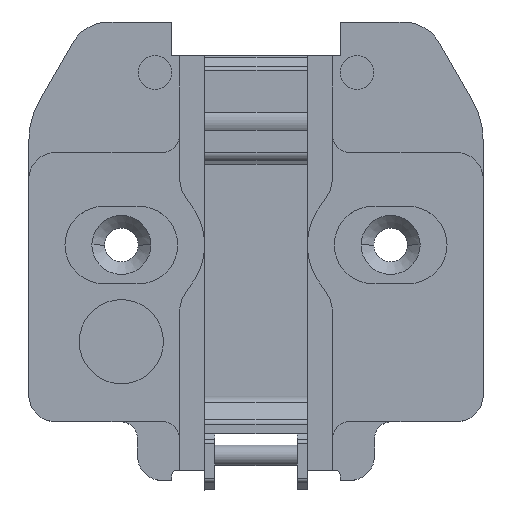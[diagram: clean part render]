
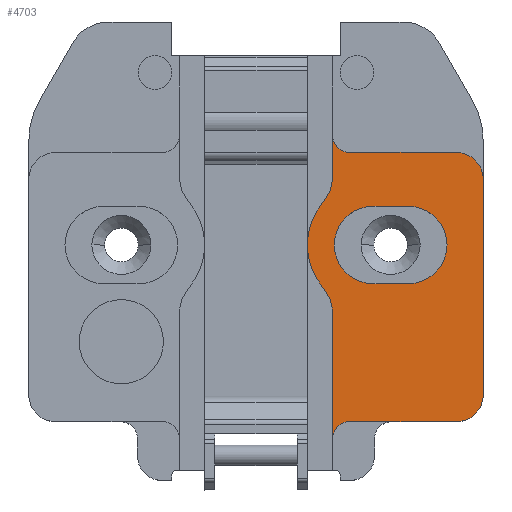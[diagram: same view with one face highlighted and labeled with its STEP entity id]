
A CAD part, top view. The second image highlights one B-rep face of the part: STEP entity #4703.
In plain terms, the highlighted planar face has unit normal (0, 0, 1).
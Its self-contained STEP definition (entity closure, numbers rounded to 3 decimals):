
#72 = CARTESIAN_POINT ( 'NONE',  ( 45.5, -1.25, 4.9 ) ) ;
#74 = DIRECTION ( 'NONE',  ( 1., 0., 0. ) ) ;
#223 = CARTESIAN_POINT ( 'NONE',  ( 47.3, 27.55, 4.9 ) ) ;
#224 = DIRECTION ( 'NONE',  ( 0., 0., 1. ) ) ;
#225 = DIRECTION ( 'NONE',  ( 1., 0., 0. ) ) ;
#249 = CARTESIAN_POINT ( 'NONE',  ( 50.5, 1.95, 4.9 ) ) ;
#250 = DIRECTION ( 'NONE',  ( 0., 1., 0. ) ) ;
#254 = CARTESIAN_POINT ( 'NONE',  ( 47.3, 1.95, 4.9 ) ) ;
#255 = DIRECTION ( 'NONE',  ( 0., 0., 1. ) ) ;
#256 = DIRECTION ( 'NONE',  ( 1., 0., 0. ) ) ;
#267 = CARTESIAN_POINT ( 'NONE',  ( 32.6, 1.75, 4.9 ) ) ;
#268 = DIRECTION ( 'NONE',  ( 0., -1., 0. ) ) ;
#274 = CARTESIAN_POINT ( 'NONE',  ( 45.5, 30.75, 4.9 ) ) ;
#275 = DIRECTION ( 'NONE',  ( -1., 0., 0. ) ) ;
#276 = CARTESIAN_POINT ( 'NONE',  ( 34.6, 32.74, 4.9 ) ) ;
#277 = DIRECTION ( 'NONE',  ( 0., 0., -1. ) ) ;
#278 = DIRECTION ( 'NONE',  ( 1., 0., 0. ) ) ;
#279 = CARTESIAN_POINT ( 'NONE',  ( 32.6, 1.75, 4.9 ) ) ;
#280 = DIRECTION ( 'NONE',  ( 0., -1., 0. ) ) ;
#281 = CARTESIAN_POINT ( 'NONE',  ( 41.6, 15.15, 4.9 ) ) ;
#282 = DIRECTION ( 'NONE',  ( 1., 0., 0. ) ) ;
#283 = CARTESIAN_POINT ( 'NONE',  ( 34.6, -3.24, 4.9 ) ) ;
#284 = DIRECTION ( 'NONE',  ( 0., 0., -1. ) ) ;
#285 = DIRECTION ( 'NONE',  ( 1., 0., 0. ) ) ;
#286 = CARTESIAN_POINT ( 'NONE',  ( 41.6, 24.35, 4.9 ) ) ;
#287 = DIRECTION ( 'NONE',  ( -1., 0., 0. ) ) ;
#290 = CARTESIAN_POINT ( 'NONE',  ( 41.6, 19.75, 4.9 ) ) ;
#291 = DIRECTION ( 'NONE',  ( 0., 0., 1. ) ) ;
#292 = DIRECTION ( 'NONE',  ( 0., 1., 0. ) ) ;
#295 = CARTESIAN_POINT ( 'NONE',  ( 37.4, 19.75, 4.9 ) ) ;
#296 = DIRECTION ( 'NONE',  ( 0., 0., 1. ) ) ;
#297 = DIRECTION ( 'NONE',  ( 0., 1., 0. ) ) ;
#574 = CIRCLE ( 'NONE', #4650, 3.2 ) ;
#591 = LINE ( 'NONE', #249, #594 ) ;
#594 = VECTOR ( 'NONE', #250, 1000. ) ;
#597 = CIRCLE ( 'NONE', #4655, 3.2 ) ;
#607 = CIRCLE ( 'NONE', #4659, 2. ) ;
#609 = LINE ( 'NONE', #267, #611 ) ;
#610 = LINE ( 'NONE', #279, #613 ) ;
#611 = VECTOR ( 'NONE', #268, 1000. ) ;
#612 = CIRCLE ( 'NONE', #4660, 2. ) ;
#613 = VECTOR ( 'NONE', #280, 1000. ) ;
#614 = LINE ( 'NONE', #274, #616 ) ;
#615 = LINE ( 'NONE', #286, #618 ) ;
#616 = VECTOR ( 'NONE', #275, 1000. ) ;
#617 = CIRCLE ( 'NONE', #4661, 4.6 ) ;
#618 = VECTOR ( 'NONE', #287, 1000. ) ;
#619 = LINE ( 'NONE', #281, #621 ) ;
#620 = CIRCLE ( 'NONE', #4662, 4.6 ) ;
#621 = VECTOR ( 'NONE', #282, 1000. ) ;
#835 = FACE_OUTER_BOUND ( 'NONE', #2392, .T. ) ;
#857 = FACE_BOUND ( 'NONE', #3186, .T. ) ;
#1097 = AXIS2_PLACEMENT_3D ( 'NONE', #1576, #1581, #1582 ) ;
#1359 = CARTESIAN_POINT ( 'NONE',  ( 31.428, 24.768, 4.9 ) ) ;
#1362 = CARTESIAN_POINT ( 'NONE',  ( 32.6, 11.516, 4.9 ) ) ;
#1520 = CARTESIAN_POINT ( 'NONE',  ( 31.428, 14.732, 4.9 ) ) ;
#1576 = CARTESIAN_POINT ( 'NONE',  ( 44.1, 3.75, 4.9 ) ) ;
#1579 = PLANE ( 'NONE',  #1097 ) ;
#1581 = DIRECTION ( 'NONE',  ( 0., 0., 1. ) ) ;
#1582 = DIRECTION ( 'NONE',  ( 0., 1., 0. ) ) ;
#2105 = DIRECTION ( 'NONE',  ( 0., 1., 0. ) ) ;
#2123 = CARTESIAN_POINT ( 'NONE',  ( 27.6, 27.984, 4.9 ) ) ;
#2125 = DIRECTION ( 'NONE',  ( 0., 1., 0. ) ) ;
#2126 = CARTESIAN_POINT ( 'NONE',  ( 27.6, 11.516, 4.9 ) ) ;
#2129 = DIRECTION ( 'NONE',  ( 0., 0., -1. ) ) ;
#2134 = DIRECTION ( 'NONE',  ( 0., 0., -1. ) ) ;
#2149 = VERTEX_POINT ( 'NONE', #1362 ) ;
#2156 = VERTEX_POINT ( 'NONE', #1359 ) ;
#2312 = VERTEX_POINT ( 'NONE', #1520 ) ;
#2392 = EDGE_LOOP ( 'NONE', ( #2756, #2757, #2758, #2759, #2760, #2761, #2762, #2763, #2764, #2765, #2766, #2767 ) ) ;
#2487 = CIRCLE ( 'NONE', #4631, 5. ) ;
#2503 = LINE ( 'NONE', #72, #2506 ) ;
#2506 = VECTOR ( 'NONE', #74, 1000. ) ;
#2756 = ORIENTED_EDGE ( 'NONE', *, *, #4418, .T. ) ;
#2757 = ORIENTED_EDGE ( 'NONE', *, *, #4419, .T. ) ;
#2758 = ORIENTED_EDGE ( 'NONE', *, *, #4338, .T. ) ;
#2759 = ORIENTED_EDGE ( 'NONE', *, *, #4347, .T. ) ;
#2760 = ORIENTED_EDGE ( 'NONE', *, *, #4334, .T. ) ;
#2761 = ORIENTED_EDGE ( 'NONE', *, *, #4420, .T. ) ;
#2762 = ORIENTED_EDGE ( 'NONE', *, *, #4421, .T. ) ;
#2763 = ORIENTED_EDGE ( 'NONE', *, *, #4250, .T. ) ;
#2764 = ORIENTED_EDGE ( 'NONE', *, *, #4411, .T. ) ;
#2765 = ORIENTED_EDGE ( 'NONE', *, *, #4408, .T. ) ;
#2766 = ORIENTED_EDGE ( 'NONE', *, *, #4397, .T. ) ;
#2767 = ORIENTED_EDGE ( 'NONE', *, *, #4422, .T. ) ;
#2768 = ORIENTED_EDGE ( 'NONE', *, *, #4423, .F. ) ;
#2769 = ORIENTED_EDGE ( 'NONE', *, *, #4424, .F. ) ;
#2770 = ORIENTED_EDGE ( 'NONE', *, *, #4425, .F. ) ;
#2771 = ORIENTED_EDGE ( 'NONE', *, *, #4426, .F. ) ;
#3186 = EDGE_LOOP ( 'NONE', ( #2768, #2769, #2770, #2771 ) ) ;
#3493 = VERTEX_POINT ( 'NONE', #4000 ) ;
#3495 = VERTEX_POINT ( 'NONE', #3861 ) ;
#3496 = VERTEX_POINT ( 'NONE', #3764 ) ;
#3499 = VERTEX_POINT ( 'NONE', #3846 ) ;
#3509 = VERTEX_POINT ( 'NONE', #3797 ) ;
#3531 = VERTEX_POINT ( 'NONE', #3772 ) ;
#3532 = VERTEX_POINT ( 'NONE', #3789 ) ;
#3533 = VERTEX_POINT ( 'NONE', #3774 ) ;
#3539 = VERTEX_POINT ( 'NONE', #3815 ) ;
#3545 = VERTEX_POINT ( 'NONE', #3799 ) ;
#3586 = VERTEX_POINT ( 'NONE', #3888 ) ;
#3631 = VERTEX_POINT ( 'NONE', #3842 ) ;
#3724 = VERTEX_POINT ( 'NONE', #3964 ) ;
#3738 = DIRECTION ( 'NONE',  ( 0., 0., 1. ) ) ;
#3739 = DIRECTION ( 'NONE',  ( 0., 1., 0. ) ) ;
#3741 = CARTESIAN_POINT ( 'NONE',  ( 37.4, 19.75, 4.9 ) ) ;
#3764 = CARTESIAN_POINT ( 'NONE',  ( 41.6, 24.35, 4.9 ) ) ;
#3772 = CARTESIAN_POINT ( 'NONE',  ( 34.4, 30.75, 4.9 ) ) ;
#3774 = CARTESIAN_POINT ( 'NONE',  ( 41.6, 15.15, 4.9 ) ) ;
#3789 = CARTESIAN_POINT ( 'NONE',  ( 32.6, 32.74, 4.9 ) ) ;
#3797 = CARTESIAN_POINT ( 'NONE',  ( 37.4, 15.15, 4.9 ) ) ;
#3799 = CARTESIAN_POINT ( 'NONE',  ( 50.5, 1.95, 4.9 ) ) ;
#3815 = CARTESIAN_POINT ( 'NONE',  ( 50.5, 27.55, 4.9 ) ) ;
#3842 = CARTESIAN_POINT ( 'NONE',  ( 47.3, -1.25, 4.9 ) ) ;
#3846 = CARTESIAN_POINT ( 'NONE',  ( 47.3, 30.75, 4.9 ) ) ;
#3861 = CARTESIAN_POINT ( 'NONE',  ( 37.4, 24.35, 4.9 ) ) ;
#3888 = CARTESIAN_POINT ( 'NONE',  ( 34.4, -1.25, 4.9 ) ) ;
#3964 = CARTESIAN_POINT ( 'NONE',  ( 32.6, 27.984, 4.9 ) ) ;
#4000 = CARTESIAN_POINT ( 'NONE',  ( 32.6, -3.24, 4.9 ) ) ;
#4158 = CIRCLE ( 'NONE', #4633, 5. ) ;
#4189 = CIRCLE ( 'NONE', #4638, 7.8 ) ;
#4250 = EDGE_CURVE ( 'NONE', #3586, #3631, #2503, .T. ) ;
#4334 = EDGE_CURVE ( 'NONE', #2312, #2149, #2487, .T. ) ;
#4338 = EDGE_CURVE ( 'NONE', #3724, #2156, #4158, .T. ) ;
#4347 = EDGE_CURVE ( 'NONE', #2156, #2312, #4189, .T. ) ;
#4397 = EDGE_CURVE ( 'NONE', #3539, #3499, #574, .T. ) ;
#4408 = EDGE_CURVE ( 'NONE', #3545, #3539, #591, .T. ) ;
#4411 = EDGE_CURVE ( 'NONE', #3631, #3545, #597, .T. ) ;
#4418 = EDGE_CURVE ( 'NONE', #3531, #3532, #607, .T. ) ;
#4419 = EDGE_CURVE ( 'NONE', #3532, #3724, #609, .T. ) ;
#4420 = EDGE_CURVE ( 'NONE', #2149, #3493, #610, .T. ) ;
#4421 = EDGE_CURVE ( 'NONE', #3493, #3586, #612, .T. ) ;
#4422 = EDGE_CURVE ( 'NONE', #3499, #3531, #614, .T. ) ;
#4423 = EDGE_CURVE ( 'NONE', #3496, #3495, #615, .T. ) ;
#4424 = EDGE_CURVE ( 'NONE', #3533, #3496, #617, .T. ) ;
#4425 = EDGE_CURVE ( 'NONE', #3509, #3533, #619, .T. ) ;
#4426 = EDGE_CURVE ( 'NONE', #3495, #3509, #620, .T. ) ;
#4631 = AXIS2_PLACEMENT_3D ( 'NONE', #2126, #2134, #2105 ) ;
#4633 = AXIS2_PLACEMENT_3D ( 'NONE', #2123, #2129, #2125 ) ;
#4638 = AXIS2_PLACEMENT_3D ( 'NONE', #3741, #3738, #3739 ) ;
#4650 = AXIS2_PLACEMENT_3D ( 'NONE', #223, #224, #225 ) ;
#4655 = AXIS2_PLACEMENT_3D ( 'NONE', #254, #255, #256 ) ;
#4659 = AXIS2_PLACEMENT_3D ( 'NONE', #276, #277, #278 ) ;
#4660 = AXIS2_PLACEMENT_3D ( 'NONE', #283, #284, #285 ) ;
#4661 = AXIS2_PLACEMENT_3D ( 'NONE', #290, #291, #292 ) ;
#4662 = AXIS2_PLACEMENT_3D ( 'NONE', #295, #296, #297 ) ;
#4703 = ADVANCED_FACE ( 'NONE', ( #835, #857 ), #1579, .T. ) ;
